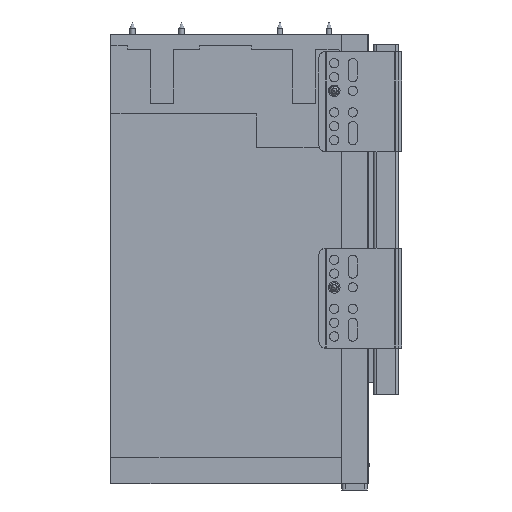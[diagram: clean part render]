
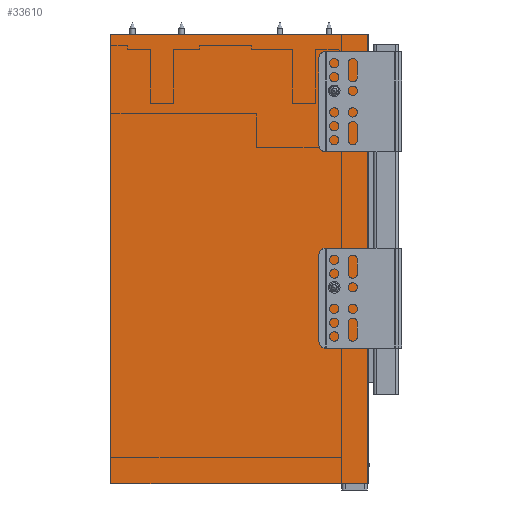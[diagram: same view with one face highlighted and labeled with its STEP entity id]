
A CAD part, left-side view. The second image highlights one B-rep face of the part: STEP entity #33610.
In plain terms, the highlighted planar face has unit normal (-1, 0, 0).
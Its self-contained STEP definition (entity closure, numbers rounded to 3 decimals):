
#2200=FACE_OUTER_BOUND('',#4142,.T.);
#4142=EDGE_LOOP('',(#23330,#23331,#23332,#23333));
#6470=LINE('',#48407,#10384);
#6471=LINE('',#48409,#10385);
#6472=LINE('',#48411,#10386);
#6473=LINE('',#48412,#10387);
#10384=VECTOR('',#39172,10.);
#10385=VECTOR('',#39173,10.);
#10386=VECTOR('',#39174,10.);
#10387=VECTOR('',#39175,10.);
#14303=VERTEX_POINT('',#48405);
#14304=VERTEX_POINT('',#48406);
#14305=VERTEX_POINT('',#48408);
#14306=VERTEX_POINT('',#48410);
#17780=EDGE_CURVE('',#14303,#14304,#6470,.T.);
#17781=EDGE_CURVE('',#14303,#14305,#6471,.T.);
#17782=EDGE_CURVE('',#14306,#14305,#6472,.T.);
#17783=EDGE_CURVE('',#14304,#14306,#6473,.T.);
#23330=ORIENTED_EDGE('',*,*,#17780,.F.);
#23331=ORIENTED_EDGE('',*,*,#17781,.T.);
#23332=ORIENTED_EDGE('',*,*,#17782,.F.);
#23333=ORIENTED_EDGE('',*,*,#17783,.F.);
#32151=PLANE('',#35750);
#33610=ADVANCED_FACE('',(#2200),#32151,.T.);
#35750=AXIS2_PLACEMENT_3D('',#48404,#39170,#39171);
#39170=DIRECTION('center_axis',(-1.,0.,0.));
#39171=DIRECTION('ref_axis',(0.,1.,0.));
#39172=DIRECTION('',(0.,0.,-1.));
#39173=DIRECTION('',(0.,1.,0.));
#39174=DIRECTION('',(0.,0.,1.));
#39175=DIRECTION('',(0.,1.,0.));
#48404=CARTESIAN_POINT('Origin',(-174.9,22.,11.5));
#48405=CARTESIAN_POINT('',(-174.9,22.5,11.5));
#48406=CARTESIAN_POINT('',(-174.9,22.5,-281.5));
#48407=CARTESIAN_POINT('',(-174.9,22.5,11.5));
#48408=CARTESIAN_POINT('',(-174.9,189.5,11.5));
#48409=CARTESIAN_POINT('',(-174.9,22.,11.5));
#48410=CARTESIAN_POINT('',(-174.9,189.5,-281.5));
#48411=CARTESIAN_POINT('',(-174.9,189.5,11.5));
#48412=CARTESIAN_POINT('',(-174.9,22.,-281.5));
